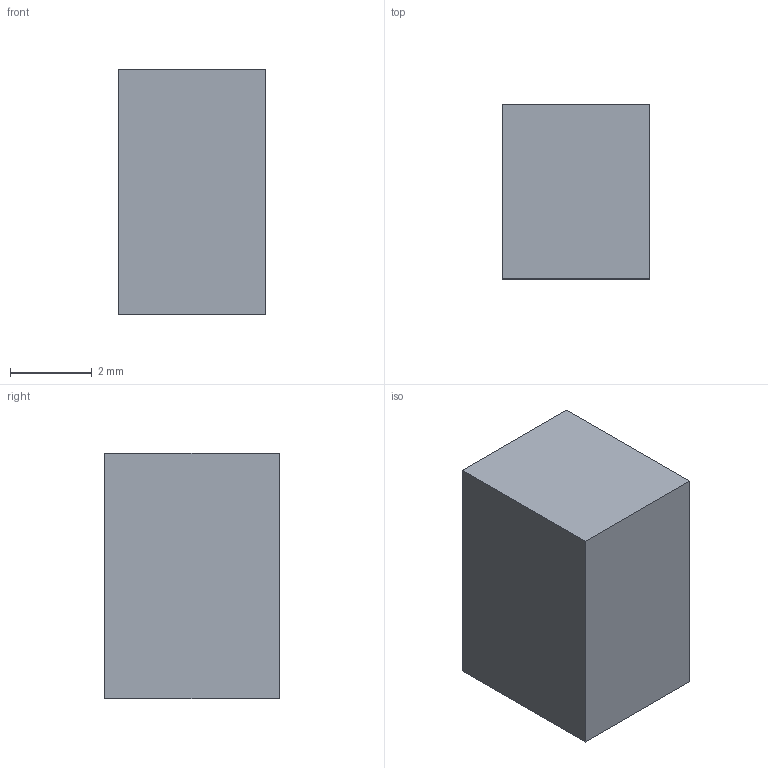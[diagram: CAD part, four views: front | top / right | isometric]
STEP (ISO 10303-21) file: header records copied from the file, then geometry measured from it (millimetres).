
FILE_DESCRIPTION(('Open CASCADE Model'),'2;1');
FILE_NAME('Open CASCADE Shape Model','2026-08-18T10:55:10',('Author'),( 'Open CASCADE'),'Open CASCADE STEP processor 7.9','Open CASCADE 7.9' ,'Unknown');
FILE_SCHEMA(('AUTOMOTIVE_DESIGN { 1 0 10303 214 1 1 1 1 }'));
Length unit declared in the file: millimetre
Products named in the file (1): fan_connector
Bounding box: 3.61 x 4.25 x 6 mm (x, y, z)
Volume: 92.1 mm3; surface area: 125 mm2
Topology: 1 solids, 1 shells, 6 faces, 12 edges, 8 vertices
Faces by surface type: plane 6
Entity records: 322 total; most frequent: CARTESIAN_POINT 51, DIRECTION 50, LINE 36, VECTOR 36, ORIENTED_EDGE 24, PCURVE 24, DEFINITIONAL_REPRESENTATION 24, EDGE_CURVE 12
